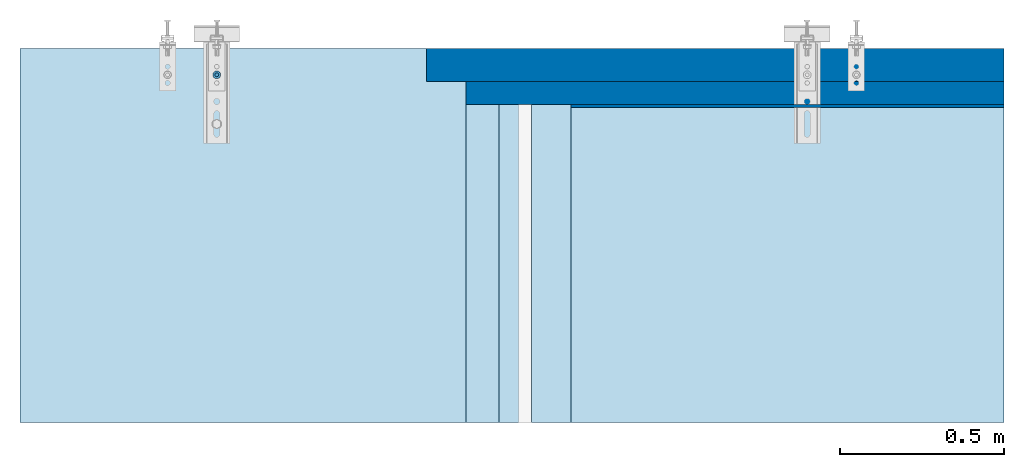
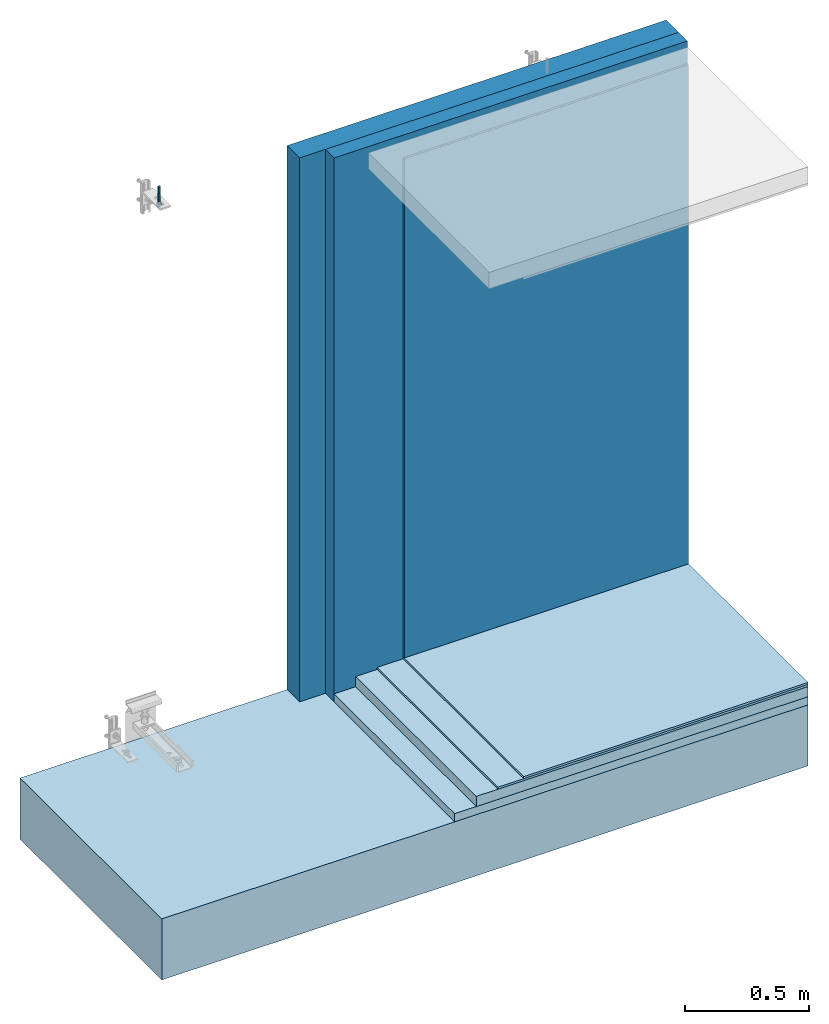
# One storey, part 1 of 7: 5 slabs, 3 walls, 1 assembly.
"""IFC2X3 building model written with IfcOpenShell, lengths in metres."""

import ifcopenshell
import ifcopenshell.guid

model = None  # the IFC model being written
_history = None  # IfcOwnerHistory: only IFC2X3 demands one
_inside = {}  # id of a spatial element -> (the spatial element, [elements in it])
_under = {}  # id of a project, library or spatial element -> (it, [spatial elements below it])
_declared = {}  # id of a project -> (the project, [libraries it declares])
_typed = {}  # id of a type object -> (the type object, [elements of that type])
_made_of = {}  # id of a material, layer set ... -> (it, [elements and type objects made of it])


def new_model(schema):
    """Start an empty IFC model of exactly this schema.

    Asked for "IFC4X3", IfcOpenShell would pick the latest addendum, in which some entities
    have other attributes; the version numbers below select the first issue.
    IFC2X3 requires an IfcOwnerHistory on every rooted entity: one is made here for all.
    """
    global model, _history
    if schema == "IFC4X3":
        model = ifcopenshell.file(schema_version=(4, 3, 0, 0))
    else:
        model = ifcopenshell.file(schema=schema)
    _inside.clear()
    _under.clear()
    _declared.clear()
    _typed.clear()
    _made_of.clear()
    _history = None
    if model.schema == "IFC2X3":
        org = make("IfcOrganization", Name="unknown")
        user = make(
            "IfcPersonAndOrganization",
            ThePerson=make("IfcPerson", FamilyName="unknown"),
            TheOrganization=org,
        )
        app = make(
            "IfcApplication",
            ApplicationDeveloper=org,
            Version="unknown",
            ApplicationFullName="unknown",
            ApplicationIdentifier="unknown",
        )
        _history = make(
            "IfcOwnerHistory",
            OwningUser=user,
            OwningApplication=app,
            ChangeAction="ADDED",
            CreationDate=0,
        )
    return model


def make(cls, **values):
    """One entity of the class cls with the attributes given. An attribute that is None is left unset."""
    return model.create_entity(
        cls, **{name: value for name, value in values.items() if value is not None}
    )


def entity(cls, *values):
    """Any entity or typed value of the class cls, its attributes in the order of the schema. None: left unset."""
    e = model.create_entity(cls)
    for i, value in enumerate(values):
        if value is not None:
            e[i] = value
    return e


def rooted(cls, **values):
    """An entity with a GlobalId (a new one), such as an element, a storey or a relation."""
    return make(cls, GlobalId=ifcopenshell.guid.new(), OwnerHistory=_history, **values)


def si_unit(unit_type, name, prefix=None):
    """IfcSIUnit, for example si_unit("LENGTHUNIT", "METRE", prefix="MILLI")."""
    return make("IfcSIUnit", UnitType=unit_type, Prefix=prefix, Name=name)


def converted_unit(unit_type, name, factor, base, dimensions=None, offset=None):
    """IfcConversionBasedUnit, such as the inch: factor (a typed value) times the base unit."""
    return make(
        "IfcConversionBasedUnit"
        if offset is None
        else "IfcConversionBasedUnitWithOffset",
        ConversionOffset=offset,
        Dimensions=None
        if dimensions is None
        else entity("IfcDimensionalExponents", *dimensions),
        UnitType=unit_type,
        Name=name,
        ConversionFactor=make(
            "IfcMeasureWithUnit", ValueComponent=factor, UnitComponent=base
        ),
    )


def derived_unit(unit_type, elements):
    """IfcDerivedUnit: a product of units, each with its exponent."""
    return make(
        "IfcDerivedUnit",
        Elements=[
            make("IfcDerivedUnitElement", Unit=unit, Exponent=power)
            for unit, power in elements
        ],
        UnitType=unit_type,
    )


def assignment(units):
    """IfcUnitAssignment: the units of a project."""
    return None if units is None else make("IfcUnitAssignment", Units=units)


def point(xyz):
    """IfcCartesianPoint."""
    return None if xyz is None else make("IfcCartesianPoint", Coordinates=xyz)


def direction(xyz):
    """IfcDirection."""
    return None if xyz is None else make("IfcDirection", DirectionRatios=xyz)


def frame(location, z_axis=None, x_axis=None):
    """IfcAxis2Placement3D, a coordinate frame: its origin and axes. An axis left out is left unset."""
    return make(
        "IfcAxis2Placement3D",
        Location=point(location),
        Axis=direction(z_axis),
        RefDirection=direction(x_axis),
    )


def frame_2d(location, x_axis=None):
    """IfcAxis2Placement2D, a coordinate frame in the plane: its origin and x axis."""
    return make(
        "IfcAxis2Placement2D", Location=point(location), RefDirection=direction(x_axis)
    )


def origin():
    """The frame at (0, 0, 0) with its axes left unset."""
    return frame((0.0, 0.0, 0.0))


def origin_2d_with_axis():
    """The frame at (0, 0) in the plane with the x axis (1, 0) written out."""
    return frame_2d((0.0, 0.0), x_axis=(1.0, 0.0))


def place(relative_to, where):
    """IfcLocalPlacement: puts the frame where relative to a parent placement (None: the world)."""
    return make(
        "IfcLocalPlacement", PlacementRelTo=relative_to, RelativePlacement=where
    )


def context(
    kind, dimensions, precision=None, world=None, true_north=None, identifier=None
):
    """IfcGeometricRepresentationContext, for example the 3D "Model" context."""
    return make(
        "IfcGeometricRepresentationContext",
        ContextIdentifier=identifier,
        ContextType=kind,
        CoordinateSpaceDimension=dimensions,
        Precision=precision,
        WorldCoordinateSystem=world,
        TrueNorth=true_north,
    )


def subcontext(parent, identifier, kind, view, scale=None):
    """IfcGeometricRepresentationSubContext, for example "Body" below "Model"."""
    return make(
        "IfcGeometricRepresentationSubContext",
        ContextIdentifier=identifier,
        ContextType=kind,
        ParentContext=parent,
        TargetScale=scale,
        TargetView=view,
    )


def project(units=None, contexts=None):
    """IfcProject with its units and contexts."""
    return rooted(
        "IfcProject",
        Name="project",
        RepresentationContexts=contexts,
        UnitsInContext=assignment(units),
    )


def spatial(cls, under=None, at=None, **own):
    """A site, building, storey or space (cls), placed at a placement, below another one or the project."""
    s = rooted(cls, ObjectPlacement=at, **own)
    if under is not None:
        _under.setdefault(under.id(), (under, []))[1].append(s)
    return s


def polyline(points):
    """IfcPolyline through the points."""
    return make("IfcPolyline", Points=[point(p) for p in points])


def circle_curve(where, radius):
    """IfcCircle in the frame where."""
    return make("IfcCircle", Position=where, Radius=radius)


def parameter(value):
    """IfcParameterValue: where a trimmed curve begins or ends, as a parameter of its basis curve."""
    return model.create_entity("IfcParameterValue", value)


def trimmed(basis, trim1, trim2, sense, master):
    """IfcTrimmedCurve: the piece of a basis curve between two trims."""
    return make(
        "IfcTrimmedCurve",
        BasisCurve=basis,
        Trim1=trim1,
        Trim2=trim2,
        SenseAgreement=sense,
        MasterRepresentation=master,
    )


def segment(curve, same_sense, transition):
    """IfcCompositeCurveSegment."""
    return make(
        "IfcCompositeCurveSegment",
        Transition=transition,
        SameSense=same_sense,
        ParentCurve=curve,
    )


def composite_curve(segments, self_intersect=None):
    """IfcCompositeCurve: segments joined end to end."""
    return make("IfcCompositeCurve", Segments=segments, SelfIntersect=self_intersect)


def profile(cls, at=None, kind="AREA", **sizes):
    """A parametric profile (cls). Its sizes go by their IFC names, for example OverallWidth=200.0."""
    return make(cls, ProfileType=kind, Position=at, **sizes)


def rectangle(**sizes):
    """IfcRectangleProfileDef."""
    return profile("IfcRectangleProfileDef", **sizes)


def circle(**sizes):
    """IfcCircleProfileDef."""
    return profile("IfcCircleProfileDef", **sizes)


def hollow_circle(**sizes):
    """IfcCircleHollowProfileDef."""
    return profile("IfcCircleHollowProfileDef", **sizes)


def outline(outer, holes=None, kind="AREA"):
    """IfcArbitraryClosedProfileDef: a profile drawn as a closed curve; with holes, ...WithVoids."""
    if holes is None:
        return make("IfcArbitraryClosedProfileDef", ProfileType=kind, OuterCurve=outer)
    return make(
        "IfcArbitraryProfileDefWithVoids",
        ProfileType=kind,
        OuterCurve=outer,
        InnerCurves=holes,
    )


def extrude(swept, where, along, depth):
    """IfcExtrudedAreaSolid: the profile swept, set in the frame where, extruded along a direction by depth."""
    return make(
        "IfcExtrudedAreaSolid",
        SweptArea=swept,
        Position=where,
        ExtrudedDirection=direction(along),
        Depth=depth,
    )


def shape(context_of_items, identifier, shape_type, items):
    """IfcShapeRepresentation: the items that make up one representation, for example the "Body"."""
    return make(
        "IfcShapeRepresentation",
        ContextOfItems=context_of_items,
        RepresentationIdentifier=identifier,
        RepresentationType=shape_type,
        Items=items,
    )


def source(mapping_origin, context_of_items, identifier, shape_type, items):
    """IfcRepresentationMap: a shape defined once, which mapped items show again and again."""
    return make(
        "IfcRepresentationMap",
        MappingOrigin=mapping_origin,
        MappedRepresentation=shape(context_of_items, identifier, shape_type, items),
    )


def transform(
    local_origin,
    x_axis=None,
    y_axis=None,
    z_axis=None,
    scale=None,
    scale2=None,
    scale3=None,
    uniform=True,
):
    """IfcCartesianTransformationOperator3D, or its non-uniform kind. x_axis, y_axis, z_axis: its Axis1, 2, 3."""
    if uniform:
        return make(
            "IfcCartesianTransformationOperator3D",
            Axis1=direction(x_axis),
            Axis2=direction(y_axis),
            LocalOrigin=point(local_origin),
            Scale=scale,
            Axis3=direction(z_axis),
        )
    return make(
        "IfcCartesianTransformationOperator3DnonUniform",
        Axis1=direction(x_axis),
        Axis2=direction(y_axis),
        LocalOrigin=point(local_origin),
        Scale=scale,
        Axis3=direction(z_axis),
        Scale2=scale2,
        Scale3=scale3,
    )


def mapped(mapping_source, mapping_target):
    """IfcMappedItem: shows the shape of a source again, moved by a transform."""
    return make(
        "IfcMappedItem", MappingSource=mapping_source, MappingTarget=mapping_target
    )


def material(Name=None, Category=None):
    """IfcMaterial."""
    return make("IfcMaterial", Name=Name, Category=Category)


def layer(
    of_material, thickness, ventilated=None, Name=None, Category=None, Priority=None
):
    """IfcMaterialLayer: one layer of a wall or slab, of a material (None: an air gap)."""
    return make(
        "IfcMaterialLayer",
        Material=of_material,
        LayerThickness=thickness,
        IsVentilated=ventilated,
        Name=Name,
        Category=Category,
        Priority=Priority,
    )


def layer_set(layers, Name=None):
    """IfcMaterialLayerSet."""
    return make("IfcMaterialLayerSet", MaterialLayers=layers, LayerSetName=Name)


def layer_usage(for_layer_set, set_direction, sense, offset, extent=None):
    """IfcMaterialLayerSetUsage: how a layer set lies in its element."""
    return make(
        "IfcMaterialLayerSetUsage",
        ForLayerSet=for_layer_set,
        LayerSetDirection=set_direction,
        DirectionSense=sense,
        OffsetFromReferenceLine=offset,
        ReferenceExtent=extent,
    )


def made_of(thing, what):
    """Note that an element or type object is made of a material, layer set ...; save() writes the relation."""
    if what is not None:
        _made_of.setdefault(what.id(), (what, []))[1].append(thing)
    return thing


def type_object(cls, material=None, **own):
    """A type object (cls), such as IfcWallType, which elements share."""
    return made_of(rooted(cls, **own), material)


def type_shapes(of_type, sources):
    """Give a type object the sources (RepresentationMaps) that its elements show as mapped items."""
    of_type.RepresentationMaps = sources


def element(
    cls,
    number,
    at=None,
    inside=None,
    cuts=None,
    type_object=None,
    material=None,
    context=None,
    identifier="Body",
    shape_type=None,
    held_by="IfcProductDefinitionShape",
    body=None,
    shapes=None,
    **own,
):
    """One element of the class cls, such as IfcWall. Its Tag is "e" and its number.

    at: its placement. inside: the storey or other place that contains it. cuts: it is an
    opening in that element (IfcRelVoidsElement). A single representation is given by context,
    identifier, shape_type and body (its items); several are given by shapes. held_by: the class
    of the entity that holds the representations. save() writes the other relations.
    """
    e = rooted(cls, Tag="e%d" % number, ObjectPlacement=at, **own)
    if body is not None:
        shapes = [shape(context, identifier, shape_type, body)]
    if shapes is not None:
        e.Representation = make(held_by, Representations=shapes)
    if inside is not None:
        _inside.setdefault(inside.id(), (inside, []))[1].append(e)
    if cuts is not None:
        rooted(
            "IfcRelVoidsElement", RelatingBuildingElement=cuts, RelatedOpeningElement=e
        )
    if type_object is not None:
        _typed.setdefault(type_object.id(), (type_object, []))[1].append(e)
    return made_of(e, material)


def aggregate(whole, parts):
    """IfcRelAggregates: a whole, such as a stair, and the parts it consists of."""
    return rooted("IfcRelAggregates", RelatingObject=whole, RelatedObjects=parts)


def save(model, path):
    """Write the relations noted so far, then the file.

    IfcRelAggregates (storeys below a building ...), IfcRelContainedInSpatialStructure (elements
    in a storey), IfcRelDefinesByType, IfcRelAssociatesMaterial and IfcRelDeclares: one each for
    every whole, place, type object, material and project.
    """
    for whole, parts in _under.values():
        aggregate(whole, parts)
    for where, things in _inside.values():
        rooted(
            "IfcRelContainedInSpatialStructure",
            RelatedElements=things,
            RelatingStructure=where,
        )
    for kind, things in _typed.values():
        rooted("IfcRelDefinesByType", RelatedObjects=things, RelatingType=kind)
    for what, things in _made_of.values():
        rooted("IfcRelAssociatesMaterial", RelatedObjects=things, RelatingMaterial=what)
    for by, libraries in _declared.values():
        rooted("IfcRelDeclares", RelatingContext=by, RelatedDefinitions=libraries)
    model.write(path)


model = new_model("IFC2X3")

# Units and contexts
model_context = context("Model", 3, precision=1e-05, world=origin(), true_north=direction((6.123031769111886e-17, 1.0)))
body_context = subcontext(model_context, "Body", "Model", "MODEL_VIEW")
ifc_project = project(units=[si_unit("LENGTHUNIT", "METRE"), si_unit("AREAUNIT", "SQUARE_METRE"), converted_unit("PLANEANGLEUNIT", "DEGREE", entity("IfcPlaneAngleMeasure", 0.017453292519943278), si_unit("PLANEANGLEUNIT", "RADIAN"), dimensions=[0, 0, 0, 0, 0, 0, 0]), si_unit("VOLUMEUNIT", "CUBIC_METRE"), derived_unit("THERMALTRANSMITTANCEUNIT", [(si_unit("MASSUNIT", "GRAM", prefix="KILO"), 1), (si_unit("THERMODYNAMICTEMPERATUREUNIT", "KELVIN"), -1), (si_unit("TIMEUNIT", "SECOND"), -3)]), derived_unit("USERDEFINED", [(si_unit("MASSUNIT", "GRAM", prefix="KILO"), 1), (si_unit("THERMODYNAMICTEMPERATUREUNIT", "KELVIN"), -1), (si_unit("TIMEUNIT", "SECOND"), -2)]), derived_unit("THERMALRESISTANCEUNIT", [(si_unit("MASSUNIT", "GRAM", prefix="KILO"), -1), (si_unit("TIMEUNIT", "SECOND"), 3), (si_unit("THERMODYNAMICTEMPERATUREUNIT", "KELVIN"), 1)]), derived_unit("MASSDENSITYUNIT", [(si_unit("MASSUNIT", "GRAM", prefix="KILO"), 1), (si_unit("LENGTHUNIT", "METRE"), -3)]), derived_unit("VAPORPERMEABILITYUNIT", [(si_unit("LENGTHUNIT", "METRE"), -1), (si_unit("TIMEUNIT", "SECOND"), 1)]), derived_unit("USERDEFINED", [(si_unit("MASSUNIT", "GRAM", prefix="KILO"), 1), (si_unit("TIMEUNIT", "SECOND"), -3), (si_unit("LENGTHUNIT", "METRE"), 3), (si_unit("ELECTRICCURRENTUNIT", "AMPERE"), -2)]), si_unit("PRESSUREUNIT", "PASCAL")], contexts=[model_context])

# Site, building, storey
site_placement = place(None, origin())
site = spatial("IfcSite", under=ifc_project, at=site_placement, Name="Default", CompositionType="ELEMENT")
building_placement = place(site_placement, origin())
building = spatial("IfcBuilding", under=site, at=building_placement, CompositionType="ELEMENT")
storey_placement = place(building_placement, origin())
storey = spatial("IfcBuildingStorey", under=building, at=storey_placement, Name="L0", CompositionType="ELEMENT", Elevation=0.0)

# Slabs
ifc_material_1 = material(Name="DPG_Losa Principal Obra")
ifc_layer_1 = layer(ifc_material_1, 0.30000000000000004)
ifc_layer_set_1 = layer_set([ifc_layer_1], Name="Suelo:DPG_Losa Principal Obra")
ifc_layer_usage_1 = layer_usage(ifc_layer_set_1, "AXIS3", "POSITIVE", 0.0)
slab_type_1 = type_object("IfcSlabType", Name="Suelo:DPG_Losa Principal Obra", PredefinedType="FLOOR", material=ifc_layer_set_1)
slab_1_placement = place(storey_placement, origin())
element("IfcSlab", 1, at=slab_1_placement, inside=storey, type_object=slab_type_1, material=ifc_layer_usage_1, Name="Suelo:DPG_Losa Principal Obra", ObjectType="Suelo:DPG_Losa Principal Obra", PredefinedType="FLOOR", context=body_context, shape_type="SweptSolid", body=[
    extrude(rectangle(XDim=1.140000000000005, YDim=3.0000000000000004, at=origin_2d_with_axis()), frame((6.3877202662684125, 15.364530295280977, 0.0), z_axis=(0.0, 0.0, -1.0), x_axis=(0.0, 1.0, 0.0)), (0.0, 0.0, 1.0), 0.30000000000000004),
])
ifc_material_2 = material(Name="Lana de roca")
ifc_layer_2 = layer(ifc_material_2, 0.04)
ifc_layer_set_2 = layer_set([ifc_layer_2], Name="Suelo:DPG_Aislamiento Suelo")
ifc_layer_usage_2 = layer_usage(ifc_layer_set_2, "AXIS3", "POSITIVE", 0.0)
slab_type_2 = type_object("IfcSlabType", Name="Suelo:DPG_Aislamiento Suelo", PredefinedType="FLOOR", material=ifc_layer_set_2)
slab_2_placement = place(storey_placement, origin())
element("IfcSlab", 2, at=slab_2_placement, inside=storey, type_object=slab_type_2, material=ifc_layer_usage_2, Name="Suelo:DPG_Aislamiento Suelo", ObjectType="Suelo:DPG_Aislamiento Suelo", PredefinedType="FLOOR", context=body_context, shape_type="SweptSolid", body=[
    extrude(rectangle(XDim=0.9699999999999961, YDim=1.6399999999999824, at=origin_2d_with_axis()), frame((7.067720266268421, 15.279530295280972, 0.04), z_axis=(0.0, 0.0, -1.0), x_axis=(0.0, 1.0, 0.0)), (0.0, 0.0, 1.0), 0.04),
])
ifc_material_3 = material(Name="Hormigón, ligero")
ifc_layer_3 = layer(ifc_material_3, 0.05)
ifc_layer_set_3 = layer_set([ifc_layer_3], Name="Suelo:DPG_Recrecido")
ifc_layer_usage_3 = layer_usage(ifc_layer_set_3, "AXIS3", "POSITIVE", 0.0)
slab_type_3 = type_object("IfcSlabType", Name="Suelo:DPG_Recrecido", PredefinedType="FLOOR", material=ifc_layer_set_3)
slab_3_placement = place(storey_placement, origin())
element("IfcSlab", 3, at=slab_3_placement, inside=storey, type_object=slab_type_3, material=ifc_layer_usage_3, Name="Suelo:DPG_Recrecido", ObjectType="Suelo:DPG_Recrecido", PredefinedType="FLOOR", context=body_context, shape_type="SweptSolid", body=[
    extrude(rectangle(XDim=0.9699999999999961, YDim=1.5399999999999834, at=origin_2d_with_axis()), frame((7.11772026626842, 15.279530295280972, 0.09), z_axis=(0.0, 0.0, -1.0), x_axis=(0.0, 1.0, 0.0)), (0.0, 0.0, 1.0), 0.05),
])
ifc_material_4 = material(Name="Hormigón - Hormigón moldeado in situ")
ifc_layer_4 = layer(ifc_material_4, 0.01)
ifc_layer_set_4 = layer_set([ifc_layer_4], Name="Suelo:DPG_Pegamento cemento")
ifc_layer_usage_4 = layer_usage(ifc_layer_set_4, "AXIS3", "POSITIVE", 0.0)
slab_type_4 = type_object("IfcSlabType", Name="Suelo:DPG_Pegamento cemento", PredefinedType="FLOOR", material=ifc_layer_set_4)
slab_4_placement = place(storey_placement, origin())
element("IfcSlab", 4, at=slab_4_placement, inside=storey, type_object=slab_type_4, material=ifc_layer_usage_4, Name="Suelo:DPG_Pegamento cemento", ObjectType="Suelo:DPG_Pegamento cemento", PredefinedType="FLOOR", context=body_context, shape_type="SweptSolid", body=[
    extrude(rectangle(XDim=0.969999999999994, YDim=1.4399999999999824, at=frame_2d((1.0824674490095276e-15, 0.0), x_axis=(1.0, 0.0))), frame((7.167720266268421, 15.27953029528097, 0.09999999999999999), z_axis=(0.0, 0.0, -1.0), x_axis=(0.0, 1.0, 0.0)), (0.0, 0.0, 1.0), 0.009999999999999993),
])
ifc_material_5 = material(Name="Azulejo, porcelana, 6 pulg.")
ifc_layer_5 = layer(ifc_material_5, 0.01)
ifc_layer_set_5 = layer_set([ifc_layer_5], Name="Suelo:DPG_Ceramica")
ifc_layer_usage_5 = layer_usage(ifc_layer_set_5, "AXIS3", "POSITIVE", 0.0)
slab_type_5 = type_object("IfcSlabType", Name="Suelo:DPG_Ceramica", PredefinedType="FLOOR", material=ifc_layer_set_5)
slab_5_placement = place(storey_placement, origin())
element("IfcSlab", 5, at=slab_5_placement, inside=storey, type_object=slab_type_5, material=ifc_layer_usage_5, Name="Suelo:DPG_Ceramica", ObjectType="Suelo:DPG_Ceramica", PredefinedType="FLOOR", context=body_context, shape_type="SweptSolid", body=[
    extrude(rectangle(XDim=0.9699999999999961, YDim=1.3199999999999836, at=origin_2d_with_axis()), frame((7.22772026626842, 15.279530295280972, 0.10999999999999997), z_axis=(0.0, 0.0, -1.0), x_axis=(0.0, 1.0, 0.0)), (0.0, 0.0, 1.0), 0.009999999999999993),
])

# Walls
ifc_layer_6 = layer(ifc_material_2, 0.1)
ifc_layer_set_6 = layer_set([ifc_layer_6], Name="Muro básico:DPG_Aislamiento")
ifc_layer_usage_6 = layer_usage(ifc_layer_set_6, "AXIS2", "NEGATIVE", 0.05)
wall_type_1 = type_object("IfcWallType", Name="Muro básico:DPG_Aislamiento", PredefinedType="STANDARD", material=ifc_layer_set_6)
wall_1_placement = place(storey_placement, frame((6.12772026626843, 15.884530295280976, 0.0)))
element("IfcWallStandardCase", 6, at=wall_1_placement, inside=storey, type_object=wall_type_1, material=ifc_layer_usage_6, Name="Muro básico:DPG_Aislamiento", ObjectType="Muro básico:DPG_Aislamiento", context=body_context, shape_type="SweptSolid", body=[
    extrude(rectangle(XDim=1.759999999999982, YDim=0.09999999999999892, at=frame_2d((0.879999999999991, 2.0816681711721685e-16), x_axis=(-1.0, 0.0))), origin(), (0.0, 0.0, 1.0), 2.67),
])
ifc_material_6 = material(Name="Ladrillo, común, marrón")
ifc_layer_7 = layer(ifc_material_6, 0.07)
ifc_layer_set_7 = layer_set([ifc_layer_7], Name="Muro básico:DPG_Ladrillo")
ifc_layer_usage_7 = layer_usage(ifc_layer_set_7, "AXIS2", "NEGATIVE", 0.035)
wall_type_2 = type_object("IfcWallType", Name="Muro básico:DPG_Ladrillo", PredefinedType="STANDARD", material=ifc_layer_set_7)
wall_2_placement = place(storey_placement, frame((6.24772026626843, 15.799530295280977, 0.0)))
element("IfcWallStandardCase", 7, at=wall_2_placement, inside=storey, type_object=wall_type_2, material=ifc_layer_usage_7, Name="Muro básico:DPG_Ladrillo", ObjectType="Muro básico:DPG_Ladrillo", context=body_context, shape_type="SweptSolid", body=[
    extrude(rectangle(XDim=1.6399999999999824, YDim=0.07000000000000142, at=frame_2d((0.8199999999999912, -7.806255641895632e-16), x_axis=(-1.0, 0.0))), origin(), (0.0, 0.0, 1.0), 2.67),
])
ifc_material_7 = material(Name="Enlucido")
ifc_layer_8 = layer(ifc_material_7, 0.01)
ifc_layer_set_8 = layer_set([ifc_layer_8], Name="Muro básico:DPG_Enlucido")
ifc_layer_usage_8 = layer_usage(ifc_layer_set_8, "AXIS2", "NEGATIVE", 0.005000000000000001)
wall_type_3 = type_object("IfcWallType", Name="Muro básico:DPG_Enlucido", PredefinedType="STANDARD", material=ifc_layer_set_8)
wall_3_placement = place(storey_placement, frame((6.567720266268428, 15.759530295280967, 0.1099999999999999)))
element("IfcWallStandardCase", 8, at=wall_3_placement, inside=storey, type_object=wall_type_3, material=ifc_layer_usage_8, Name="Muro básico:DPG_Enlucido", ObjectType="Muro básico:DPG_Enlucido", context=body_context, shape_type="SweptSolid", body=[
    extrude(rectangle(XDim=1.3199999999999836, YDim=0.010000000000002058, at=frame_2d((0.6599999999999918, 0.0), x_axis=(-1.0, 0.0))), origin(), (0.0, 0.0, 1.0), 2.45),
])

# Assembly
ifc_material_8 = material(Name="REC_Acero, S 275JR (Zincado)")
type_product = type_object("IfcTypeProduct", Name="REC-AEM12-100:AEM12-100", material=ifc_material_8)
shared_shape = source(origin(), body_context, "Body", "SweptSolid", [
    extrude(outline(polyline([(-0.005890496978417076, -0.010202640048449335), (0.005890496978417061, -0.010202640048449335), (0.01178099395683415, 0.0), (0.005890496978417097, 0.010202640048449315), (-0.0058904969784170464, 0.010202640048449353), (-0.011780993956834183, 0.0), (-0.005890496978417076, -0.010202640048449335)]), holes=[composite_curve([segment(trimmed(circle_curve(frame_2d((6.043164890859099e-09, 0.0), x_axis=(1.0, 0.0)), 0.005999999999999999), [parameter(3.053332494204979e-13)], [parameter(180.0)], True, "PARAMETER"), False, "CONTINUOUS"), segment(trimmed(circle_curve(frame_2d((6.043164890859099e-09, 0.0), x_axis=(1.0, 0.0)), 0.005999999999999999), [parameter(179.99999999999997)], [parameter(0.0)], True, "PARAMETER"), False, "CONTINUOUS")], self_intersect=False)]), frame((-6.043164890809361e-09, 0.0, 0.002399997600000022)), (0.0, 0.0, 1.0), 0.009600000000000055),
    extrude(hollow_circle(Radius=0.011999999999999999, WallThickness=0.004999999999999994, at=frame_2d((1.062573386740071e-19, -1.9386534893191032e-17), x_axis=(1.0, 0.0))), origin(), (0.0, 0.0, 1.0), 0.002399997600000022),
    extrude(circle(Radius=0.006, at=frame_2d((1.3218592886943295e-19, -9.69326744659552e-18), x_axis=(1.0, 0.0))), frame((0.0, 0.0, -0.05)), (0.0, 0.0, 1.0), 0.07),
    extrude(circle(Radius=0.006, at=frame_2d((1.3218592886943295e-19, -9.69326744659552e-18), x_axis=(1.0, 0.0))), frame((0.0, 0.0, -0.08)), (0.0, 0.0, 1.0), 0.027000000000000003),
    extrude(circle(Radius=0.005, at=frame_2d((1.3218592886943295e-19, -8.077722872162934e-18), x_axis=(1.0, 0.0))), frame((0.0, 0.0, -0.053)), (0.0, 0.0, 1.0), 0.002999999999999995),
])
type_shapes(type_product, [shared_shape])
assembly_placement = place(storey_placement, frame((5.487720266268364, 15.854530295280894, 2.6620000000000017), z_axis=(0.0, 0.0, -1.0), x_axis=(-1.0, 0.0, 0.0)))
element("IfcElementAssembly", 9, at=assembly_placement, inside=storey, type_object=type_product, material=ifc_material_8, Name="REC-AEM12-100:AEM12-100", ObjectType="REC-AEM12-100:AEM12-100", AssemblyPlace="NOTDEFINED", PredefinedType="NOTDEFINED", context=body_context, shape_type="MappedRepresentation", body=[
    mapped(shared_shape, transform((0.0, 0.0, 0.0), scale=1.0)),
])

save(model, "model.ifc")
